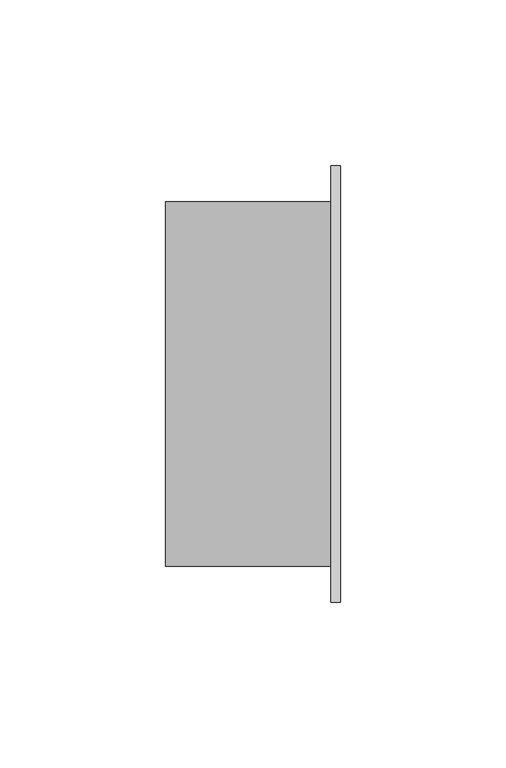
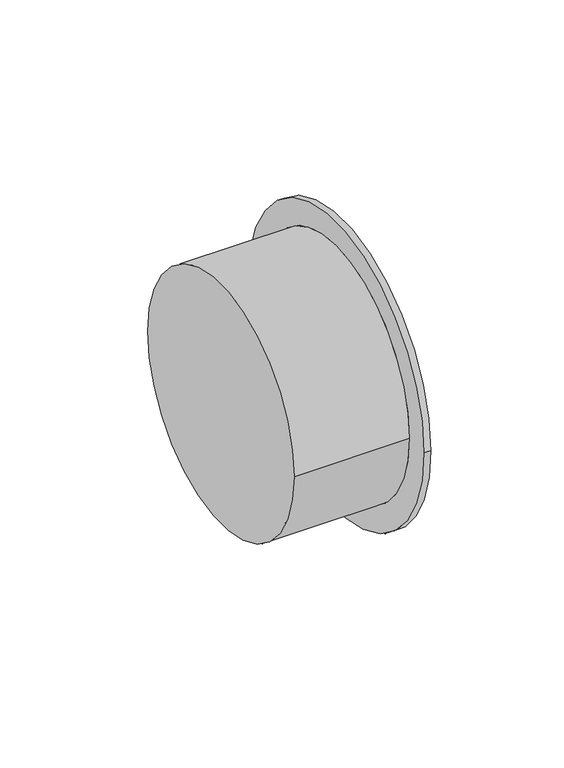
"""IFC4 building model written with IfcOpenShell, lengths in millimetres: pipe fitting geometry, Wavin_PipeFitting_S&WSPvcBossSocketPlug : Black S/E."""

from ifc_helpers import new_model, si_unit, frame, origin, place, context, project, spatial, polyline, circle_curve, source, transform, mapped, element, save
from ifc_brep_helpers import plane_surface, cylinder_surface, revolved_surface, advanced_brep


def pipe_fitting_c5642f68(model_context):
    return source(origin(), model_context, "Body", "AdvancedBrep", [
        advanced_brep(
        [(-25.0, -55.0, 0.0), (-25.0, 55.0, 0.0), (25.0, -55.0, 0.0), (25.0, 55.0, 0.0), (9.0, 0.0, 28.2), (9.0, 0.0, -28.2), (28.0, 0.0, -28.2), (28.0, 0.0, 28.2), (28.0, -66.0, 0.0), (28.0, 66.0, 0.0), (25.0, -66.0, 0.0), (25.0, 66.0, 0.0)],
        [
            (0, 1, circle_curve(frame((-25.0, 0.0, 0.0), z_axis=(-1.0, 0.0, 0.0), x_axis=(0.0, 1.0, 0.0)), 55.0)),
            (1, 0, circle_curve(frame((-25.0, 0.0, 0.0), z_axis=(-1.0, 0.0, 0.0), x_axis=(0.0, 1.0, 0.0)), 55.0)),
            (0, 2),
            (2, 3, circle_curve(frame((25.0, 0.0, 0.0), z_axis=(-1.0, 0.0, 0.0), x_axis=(0.0, 1.0, 0.0)), 55.0)),
            (3, 1),
            (3, 2, circle_curve(frame((25.0, 0.0, 0.0), z_axis=(-1.0, 0.0, 0.0), x_axis=(0.0, 1.0, 0.0)), 55.0)),
            (4, 5, circle_curve(frame((9.0, 0.0, 0.0), z_axis=(1.0, 0.0, 0.0), x_axis=(0.0, 0.0, -1.0)), 28.2)),
            (5, 4, circle_curve(frame((9.0, 0.0, 0.0), z_axis=(1.0, 0.0, 0.0), x_axis=(0.0, 0.0, -1.0)), 28.2)),
            (5, 6),
            (6, 7, circle_curve(frame((28.0, 0.0, 0.0), z_axis=(1.0, 0.0, 0.0), x_axis=(0.0, 0.0, -1.0)), 28.2)),
            (7, 4),
            (7, 6, circle_curve(frame((28.0, 0.0, 0.0), z_axis=(1.0, 0.0, 0.0), x_axis=(0.0, 0.0, -1.0)), 28.2)),
            (8, 9, circle_curve(frame((28.0, 0.0, 0.0), z_axis=(1.0, 0.0, 0.0), x_axis=(0.0, 1.0, 0.0)), 66.0)),
            (9, 8, circle_curve(frame((28.0, 0.0, 0.0), z_axis=(1.0, 0.0, 0.0), x_axis=(0.0, 1.0, 0.0)), 66.0)),
            (10, 11, circle_curve(frame((25.0, 0.0, 0.0), z_axis=(-1.0, 0.0, 0.0), x_axis=(0.0, 1.0, 0.0)), 66.0)),
            (11, 10, circle_curve(frame((25.0, 0.0, 0.0), z_axis=(-1.0, 0.0, 0.0), x_axis=(0.0, 1.0, 0.0)), 66.0)),
            (8, 10),
            (11, 9),
        ],
        [
            plane_surface(frame((-25.0, 0.0, 0.0), z_axis=(-1.0, 0.0, 0.0), x_axis=(0.0, 0.0, 1.0))),
            cylinder_surface(frame((-25.0, 0.0, 0.0), z_axis=(-1.0, 0.0, 0.0), x_axis=(0.0, 1.0, 0.0)), 55.0),
            plane_surface(frame((9.0, 0.0, 0.0), z_axis=(1.0, 0.0, 0.0), x_axis=(0.0, 1.0, 0.0))),
            revolved_surface(polyline([(9.0, 0.0, -28.2), (28.0, 0.0, -28.2)]), (9.0, 0.0, 0.0), (-1.0, 0.0, 0.0)),
            plane_surface(frame((28.0, 66.0, 0.0), z_axis=(1.0, 0.0, 0.0), x_axis=(0.0, 0.0, 1.0))),
            plane_surface(frame((25.0, 66.0, 0.0), z_axis=(-1.0, 0.0, 0.0), x_axis=(0.0, 0.0, -1.0))),
            cylinder_surface(frame((25.0, 0.0, 0.0), z_axis=(1.0, 0.0, 0.0), x_axis=(0.0, 1.0, 0.0)), 66.0),
        ],
        [
            (0, [[1, 2]]),
            (1, [[-1, 3, 4, 5]]),
            (1, [[-2, -5, 6, -3]]),
            (2, [[7, 8]]),
            (3, [[-8, 9, 10, 11]]),
            (3, [[-7, -11, 12, -9]]),
            (4, [[13, 14], [-10, -12]]),
            (5, [[15, 16], [-4, -6]]),
            (6, [[-13, 17, -16, 18]]),
            (6, [[-14, -18, -15, -17]]),
        ],
    ),
    ])


if __name__ == "__main__":
    model = new_model("IFC4")
    model_context = context("Model", 3, world=origin())
    ifc_project = project(units=[si_unit("LENGTHUNIT", "METRE", prefix="MILLI")], contexts=[model_context])
    site = spatial("IfcSite", under=ifc_project)
    building = spatial("IfcBuilding", under=site)
    placement = place(None, origin())
    pipe_fitting_shape = pipe_fitting_c5642f68(model_context)
    element("IfcPipeFitting", 1, ObjectType="Wavin_PipeFitting_S&WSPvcBossSocketPlug : Black S/E", at=placement, inside=building, context=model_context, shape_type="MappedRepresentation", body=[
        mapped(pipe_fitting_shape, transform((0.0, 0.0, 0.0), x_axis=(1.0, 0.0, 0.0), y_axis=(0.0, 1.0, 0.0), z_axis=(0.0, 0.0, 1.0))),
    ])
    save(model, "model.ifc")
